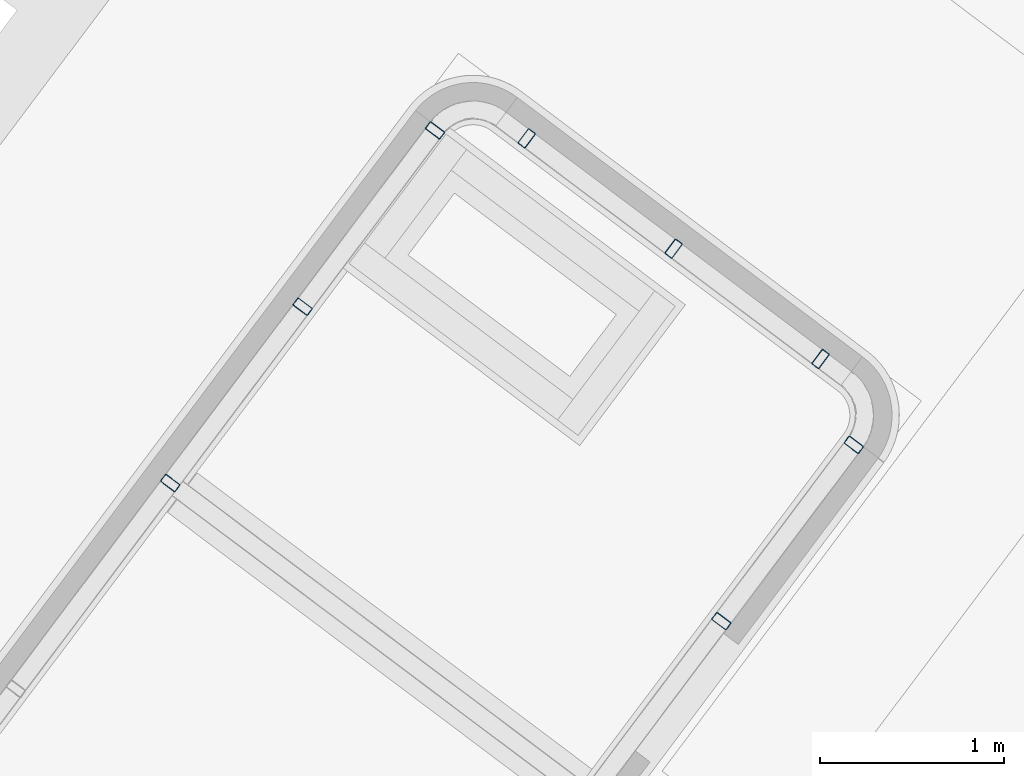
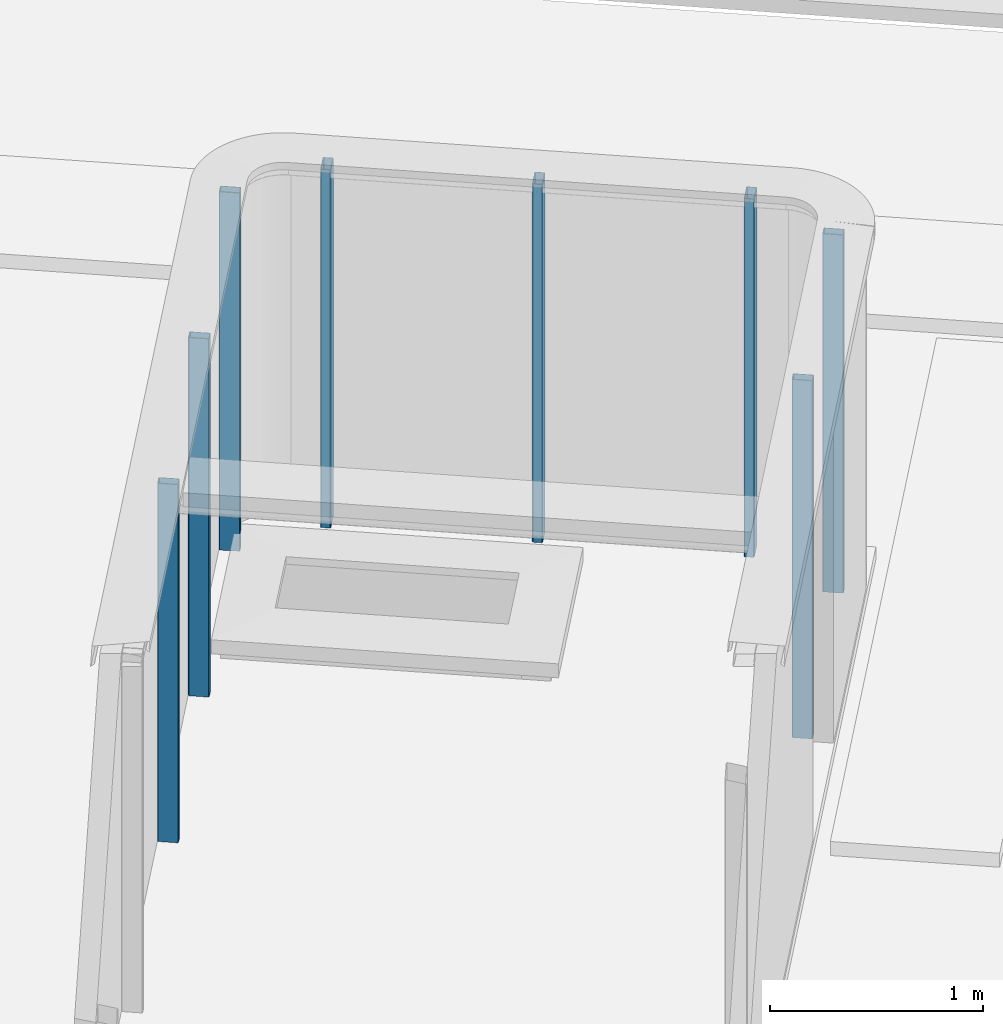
# One storey, part 7 of 28: 8 columns.
"""IFC2X3 building model written with IfcOpenShell, lengths in metres."""

from ifc_helpers import new_model, entity, si_unit, converted_unit, derived_unit, direction, frame, frame_2d, origin, place, context, subcontext, project, spatial, polyline, circle_curve, parameter, trimmed, segment, composite_curve, outline, extrude, source, transform, mapped, material, type_object, type_shapes, element, save


model = new_model("IFC2X3")

# Units and contexts
model_context = context("Model", 3, precision=1e-05, world=origin(), true_north=direction((6.123031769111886e-17, 1.0)))
body_context = subcontext(model_context, "Body", "Model", "MODEL_VIEW")
ifc_project = project(units=[si_unit("LENGTHUNIT", "METRE"), si_unit("AREAUNIT", "SQUARE_METRE"), si_unit("VOLUMEUNIT", "CUBIC_METRE"), converted_unit("PLANEANGLEUNIT", "DEGREE", entity("IfcRatioMeasure", 0.017453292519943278), si_unit("PLANEANGLEUNIT", "RADIAN"), dimensions=[0, 0, 0, 0, 0, 0, 0]), si_unit("MASSUNIT", "GRAM", prefix="KILO"), derived_unit("MASSDENSITYUNIT", [(si_unit("MASSUNIT", "GRAM", prefix="KILO"), 1), (si_unit("LENGTHUNIT", "METRE"), -3)]), derived_unit("IONCONCENTRATIONUNIT", [(si_unit("MASSUNIT", "GRAM", prefix="KILO"), 1), (si_unit("LENGTHUNIT", "METRE"), -3)]), derived_unit("MOMENTOFINERTIAUNIT", [(si_unit("LENGTHUNIT", "METRE"), 4)]), si_unit("TIMEUNIT", "SECOND"), si_unit("FREQUENCYUNIT", "HERTZ"), si_unit("THERMODYNAMICTEMPERATUREUNIT", "DEGREE_CELSIUS"), derived_unit("THERMALTRANSMITTANCEUNIT", [(si_unit("MASSUNIT", "GRAM", prefix="KILO"), 1), (si_unit("THERMODYNAMICTEMPERATUREUNIT", "KELVIN"), -1), (si_unit("TIMEUNIT", "SECOND"), -3)]), derived_unit("THERMALCONDUCTANCEUNIT", [(si_unit("MASSUNIT", "GRAM", prefix="KILO"), 1), (si_unit("THERMODYNAMICTEMPERATUREUNIT", "KELVIN"), -1), (si_unit("TIMEUNIT", "SECOND"), -3), (si_unit("LENGTHUNIT", "METRE"), 1)]), derived_unit("VOLUMETRICFLOWRATEUNIT", [(si_unit("LENGTHUNIT", "METRE"), 3), (si_unit("TIMEUNIT", "SECOND"), -1)]), derived_unit("MASSFLOWRATEUNIT", [(si_unit("MASSUNIT", "GRAM", prefix="KILO"), 1), (si_unit("TIMEUNIT", "SECOND"), -1)]), derived_unit("ROTATIONALFREQUENCYUNIT", [(si_unit("TIMEUNIT", "SECOND"), -1)]), si_unit("ELECTRICCURRENTUNIT", "AMPERE"), si_unit("ELECTRICVOLTAGEUNIT", "VOLT"), si_unit("POWERUNIT", "WATT"), si_unit("FORCEUNIT", "NEWTON", prefix="KILO"), si_unit("ILLUMINANCEUNIT", "LUX"), si_unit("LUMINOUSFLUXUNIT", "LUMEN"), si_unit("LUMINOUSINTENSITYUNIT", "CANDELA"), derived_unit("USERDEFINED", [(si_unit("MASSUNIT", "GRAM", prefix="KILO"), -1), (si_unit("LENGTHUNIT", "METRE"), -2), (si_unit("TIMEUNIT", "SECOND"), 3), (si_unit("LUMINOUSFLUXUNIT", "LUMEN"), 1)]), derived_unit("USERDEFINED", [(si_unit("MASSUNIT", "GRAM", prefix="KILO"), 1), (si_unit("TIMEUNIT", "SECOND"), -3), (si_unit("LENGTHUNIT", "METRE"), 3), (si_unit("ELECTRICCURRENTUNIT", "AMPERE"), -2)]), derived_unit("SOUNDPOWERUNIT", [(si_unit("MASSUNIT", "GRAM", prefix="KILO"), 1), (si_unit("TIMEUNIT", "SECOND"), -3), (si_unit("LENGTHUNIT", "METRE"), 2)]), derived_unit("SOUNDPRESSUREUNIT", [(si_unit("MASSUNIT", "GRAM", prefix="KILO"), 1), (si_unit("LENGTHUNIT", "METRE"), -1), (si_unit("TIMEUNIT", "SECOND"), -2)]), derived_unit("LINEARVELOCITYUNIT", [(si_unit("LENGTHUNIT", "METRE"), 1), (si_unit("TIMEUNIT", "SECOND"), -1)]), si_unit("PRESSUREUNIT", "PASCAL"), derived_unit("USERDEFINED", [(si_unit("MASSUNIT", "GRAM", prefix="KILO"), 1), (si_unit("LENGTHUNIT", "METRE"), -2), (si_unit("TIMEUNIT", "SECOND"), -2)]), derived_unit("LINEARFORCEUNIT", [(si_unit("MASSUNIT", "GRAM", prefix="KILO"), 1), (si_unit("TIMEUNIT", "SECOND"), -2)]), derived_unit("PLANARFORCEUNIT", [(si_unit("MASSUNIT", "GRAM", prefix="KILO"), 1), (si_unit("LENGTHUNIT", "METRE"), -1), (si_unit("TIMEUNIT", "SECOND"), -2)]), derived_unit("SPECIFICHEATCAPACITYUNIT", [(si_unit("THERMODYNAMICTEMPERATUREUNIT", "KELVIN"), -1), (si_unit("LENGTHUNIT", "METRE"), 2), (si_unit("TIMEUNIT", "SECOND"), -2)]), derived_unit("HEATINGVALUEUNIT", [(si_unit("LENGTHUNIT", "METRE"), 2), (si_unit("TIMEUNIT", "SECOND"), -2)]), derived_unit("VAPORPERMEABILITYUNIT", [(si_unit("LENGTHUNIT", "METRE"), -1), (si_unit("TIMEUNIT", "SECOND"), 1)]), derived_unit("DYNAMICVISCOSITYUNIT", [(si_unit("MASSUNIT", "GRAM", prefix="KILO"), 1), (si_unit("TIMEUNIT", "SECOND"), -1), (si_unit("LENGTHUNIT", "METRE"), -1)]), derived_unit("THERMALEXPANSIONCOEFFICIENTUNIT", [(si_unit("THERMODYNAMICTEMPERATUREUNIT", "KELVIN"), -1)]), derived_unit("MODULUSOFELASTICITYUNIT", [(si_unit("MASSUNIT", "GRAM", prefix="KILO"), 1), (si_unit("LENGTHUNIT", "METRE"), -1), (si_unit("TIMEUNIT", "SECOND"), -2)]), derived_unit("ISOTHERMALMOISTURECAPACITYUNIT", [(si_unit("LENGTHUNIT", "METRE"), 3), (si_unit("MASSUNIT", "GRAM", prefix="KILO"), -1)]), derived_unit("MOISTUREDIFFUSIVITYUNIT", [(si_unit("TIMEUNIT", "SECOND"), -1), (si_unit("LENGTHUNIT", "METRE"), 2)])], contexts=[model_context])

# Site, building, storey
site_placement = place(None, frame((0.0, 0.0, 235.0), z_axis=(0.0, 0.0, 1.0), x_axis=(-0.7996477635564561, 0.6004693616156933, 0.0)))
site = spatial("IfcSite", under=ifc_project, at=site_placement, Name="Default", CompositionType="ELEMENT")
building_placement = place(site_placement, origin())
building = spatial("IfcBuilding", under=site, at=building_placement, CompositionType="ELEMENT")
storey_placement = place(building_placement, frame((0.0, 0.0, 3.400000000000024)))
storey = spatial("IfcBuildingStorey", under=building, at=storey_placement, Name="PC- Coberta STR", CompositionType="ELEMENT", Elevation=3.400000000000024)

# Columns
ifc_material = material(Name="Metal - Acero - 345 MPa")
column_type = type_object("IfcColumnType", Name="STR- P- Acer- RHS- Rectangular- T1:100 x 50RHS", PredefinedType="COLUMN", material=ifc_material)
shared_shape = source(origin(), body_context, "Body", "SweptSolid", [
    extrude(outline(composite_curve([segment(polyline([(-0.01900000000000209, -0.04999999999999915), (0.019000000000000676, -0.04999999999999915)]), True, "CONTINUOUS"), segment(trimmed(circle_curve(frame_2d((0.019000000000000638, -0.04400000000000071), x_axis=(-1.0, 0.0)), 0.005999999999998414), [parameter(90.00000000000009)], [parameter(180.0000000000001)], True, "PARAMETER"), True, "CONTINUOUS"), segment(polyline([(0.024999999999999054, -0.044000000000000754), (0.02499999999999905, 0.044000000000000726)]), True, "CONTINUOUS"), segment(trimmed(circle_curve(frame_2d((0.018999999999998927, 0.044000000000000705), x_axis=(-1.0, 0.0)), 0.006000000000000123), [parameter(179.9999999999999)], [parameter(269.99999999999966)], True, "PARAMETER"), True, "CONTINUOUS"), segment(polyline([(0.018999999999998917, 0.05000000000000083), (-0.01899999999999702, 0.050000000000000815)]), True, "CONTINUOUS"), segment(trimmed(circle_curve(frame_2d((-0.018999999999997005, 0.043999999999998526), x_axis=(-1.0, 0.0)), 0.006000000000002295), [parameter(269.99999999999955)], [parameter(359.9999999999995)], True, "PARAMETER"), True, "CONTINUOUS"), segment(polyline([(-0.024999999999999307, 0.04399999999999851), (-0.024999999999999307, -0.04400000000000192)]), True, "CONTINUOUS"), segment(trimmed(circle_curve(frame_2d((-0.019000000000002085, -0.04400000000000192), x_axis=(-1.0, 0.0)), 0.005999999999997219), [parameter(359.9999999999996)], [parameter(89.99999999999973)], True, "PARAMETER"), True, "CONTINUOUS")], self_intersect=False), holes=[composite_curve([segment(trimmed(circle_curve(frame_2d((-0.019000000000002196, -0.044000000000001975), x_axis=(-1.0, 0.0)), 0.0029999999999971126), [parameter(0.0)], [parameter(90.00000000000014)], True, "PARAMETER"), False, "CONTINUOUS"), segment(polyline([(-0.021999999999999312, -0.044000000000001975), (-0.021999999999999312, 0.04400000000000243)]), True, "CONTINUOUS"), segment(trimmed(circle_curve(frame_2d((-0.019000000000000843, 0.04400000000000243), x_axis=(-1.0, 0.0)), 0.00299999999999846), [parameter(269.99999999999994)], [parameter(0.0)], True, "PARAMETER"), False, "CONTINUOUS"), segment(polyline([(-0.01900000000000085, 0.0470000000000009), (0.01899999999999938, 0.04700000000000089)]), True, "CONTINUOUS"), segment(trimmed(circle_curve(frame_2d((0.018999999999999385, 0.04399999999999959), x_axis=(-1.0, 0.0)), 0.0030000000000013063), [parameter(179.99999999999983)], [parameter(270.0)], True, "PARAMETER"), False, "CONTINUOUS"), segment(polyline([(0.022000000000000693, 0.04399999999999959), (0.022000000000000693, -0.04399999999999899)]), True, "CONTINUOUS"), segment(trimmed(circle_curve(frame_2d((0.019000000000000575, -0.043999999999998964), x_axis=(-1.0, 0.0)), 0.0030000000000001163), [parameter(90.00000000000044)], [parameter(180.0000000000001)], True, "PARAMETER"), False, "CONTINUOUS"), segment(polyline([(0.019000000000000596, -0.04699999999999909), (-0.019000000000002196, -0.04699999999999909)]), True, "CONTINUOUS")], self_intersect=False)]), frame((0.02658749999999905, 0.051587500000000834, 0.0), z_axis=(0.0, 0.0, 1.0), x_axis=(-1.0, 0.0, 0.0)), (0.0, 0.0, 1.0), 2.05),
])
type_shapes(column_type, [shared_shape])
for number, where, z_axis, x_axis, name in (
    (1, (34.40859795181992, -34.85360425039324, 0.4), (0.0, 0.0, 1.0), (0.0, -1.0, 0.0), "STR- P- Acer- RHS- Rectangular- T1:100 x 50RHS"),
    (2, (34.40859795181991, -36.053604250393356, 0.4), (0.0, 0.0, 1.0), (0.0, -1.0, 0.0), "STR- P- Acer- RHS- Rectangular- T1:100 x 50RHS"),
    (3, (34.40859795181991, -37.25360425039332, 0.4), (0.0, 0.0, 1.0), (0.0, -1.0, 0.0), "STR- P- Acer- RHS- Rectangular- T1:100 x 50RHS"),
    (4, (34.06177293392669, -37.49360422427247, 0.4), (0.0, 0.0, 1.0), (-1.0, 0.0, 0.0), "STR- P- Acer- RHS- Rectangular- T1:100 x 50RHS"),
    (5, (33.06177293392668, -37.49360422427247, 0.4), (0.0, 0.0, 1.0), (-1.0, 0.0, 0.0), "STR- P- Acer- RHS- Rectangular- T1:100 x 50RHS"),
    (6, (32.0617729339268, -37.49360422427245, 0.4), (0.0, 0.0, 1.0), (-1.0, 0.0, 0.0), "STR- P- Acer- RHS- Rectangular- T1:100 x 50RHS"),
    (7, (31.558597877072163, -36.053604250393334, 0.4), (0.0, 0.0, 1.0), (0.0, -1.0, 0.0), "STR- P- Acer- RHS- Rectangular- T1:100 x 50RHS"),
    (8, (31.558597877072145, -37.25360425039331, 0.4), (0.0, 0.0, 1.0), (0.0, -1.0, 0.0), "STR- P- Acer- RHS- Rectangular- T1:100 x 50RHS"),
):
    element("IfcColumn", number, at=place(storey_placement, frame(where, z_axis=z_axis, x_axis=x_axis)), inside=storey, type_object=column_type, material=ifc_material, Name=name, ObjectType="STR- P- Acer- RHS- Rectangular- T1:100 x 50RHS", context=body_context, shape_type="MappedRepresentation", body=[
        mapped(shared_shape, transform((0.0, 0.0, 0.0), scale=1.0)),
    ])

save(model, "model.ifc")
